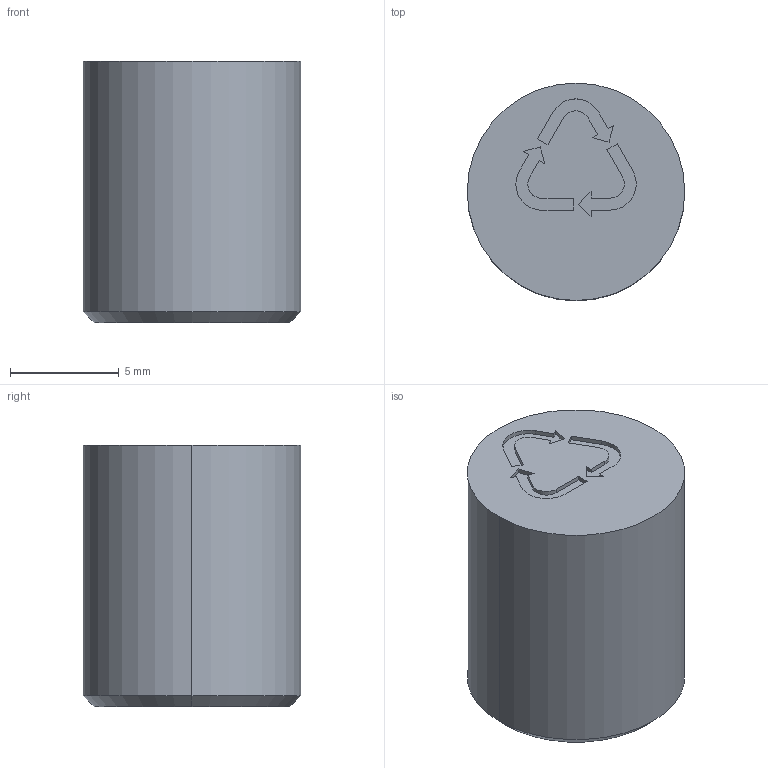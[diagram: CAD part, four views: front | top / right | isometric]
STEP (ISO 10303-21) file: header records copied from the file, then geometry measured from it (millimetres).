
FILE_DESCRIPTION (( 'STEP AP214' ), '1' );
FILE_NAME ('BruyRubio_IR_1012.STEP', '2019-12-19T17:34:23', ( '' ), ( '' ), 'SwSTEP 2.0', 'SolidWorks 2017', '' );
FILE_SCHEMA (( 'AUTOMOTIVE_DESIGN' ));
Length unit declared in the file: millimetre
Products named in the file (1): BruyRubio_IR_1012
Bounding box: 10 x 10 x 12 mm (x, y, z)
Volume: 937.1 mm3; surface area: 531.3 mm2
Topology: 1 solids, 1 shells, 44 faces, 115 edges, 76 vertices
Faces by surface type: plane 32, cylinder 10, cone 2
Entity records: 1863 total; most frequent: CARTESIAN_POINT 236, ORIENTED_EDGE 230, DIRECTION 227, EDGE_CURVE 115, LINE 93, VECTOR 93, VERTEX_POINT 76, AXIS2_PLACEMENT_3D 67
